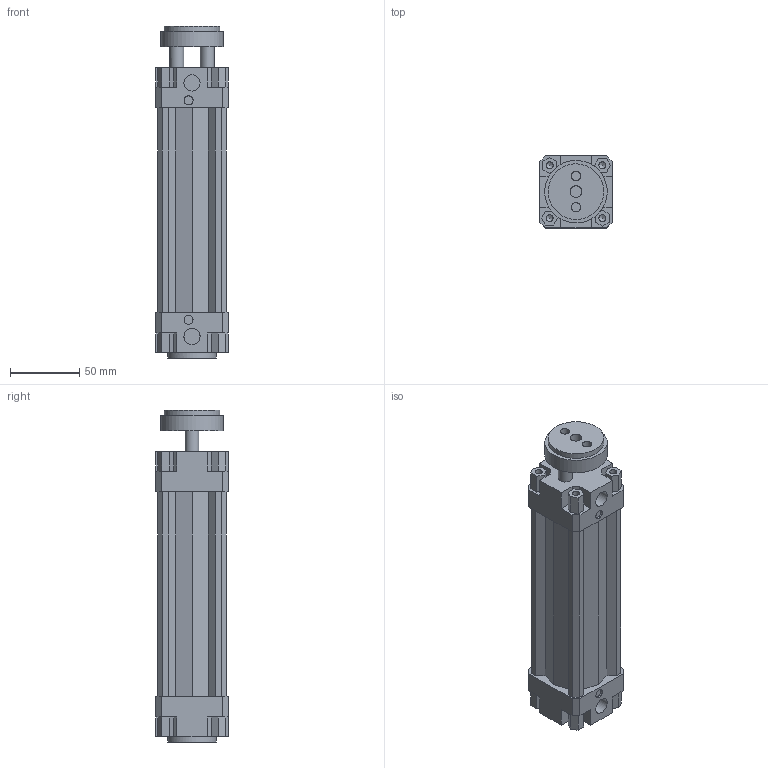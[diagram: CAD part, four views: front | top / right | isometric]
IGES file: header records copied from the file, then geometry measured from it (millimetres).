
Global section: file name: 132#_040_0100_01; native system: Autodesk Inventor 2014; preprocessor: unknown; author: A. Manieri; date: 20161006.154809; units: millimetre
Bounding box: 52 x 52 x 239 mm (x, y, z)
Volume: 342335.1 mm3; surface area: 101925.5 mm2
Topology: 2 solids, 2 shells, 180 faces, 492 edges, 336 vertices
Faces by surface type: bspline 180
